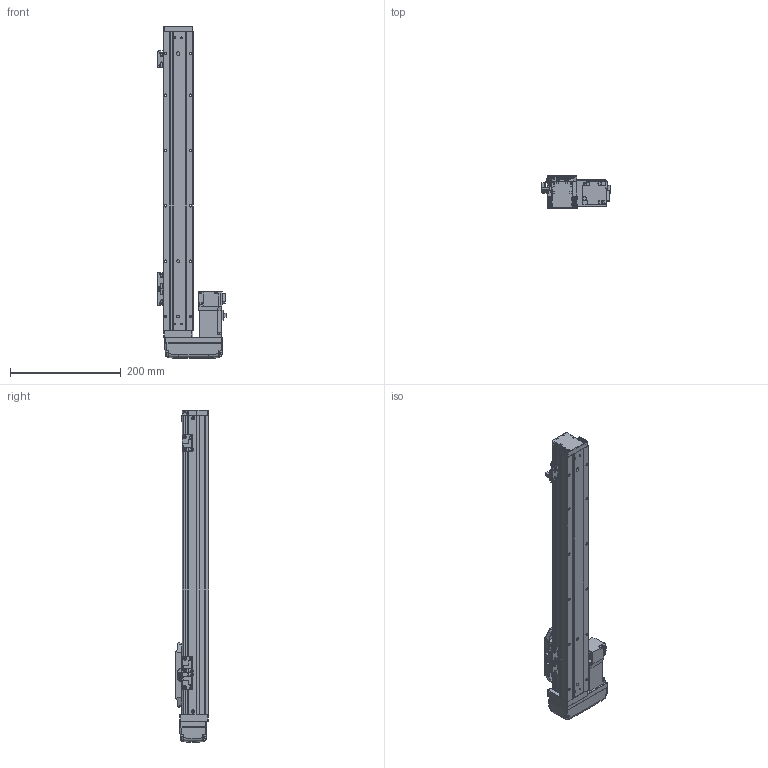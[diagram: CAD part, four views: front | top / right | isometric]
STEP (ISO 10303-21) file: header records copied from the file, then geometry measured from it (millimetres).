
FILE_DESCRIPTION (( 'STEP AP203' ), '1' );
FILE_NAME ('GTH5-400-BR-M10-C4.step', '2022-09-23T00:50:55', ( '微软用户' ), ( '微软中国' ), 'SwSTEP 2.0', 'SolidWorks 2020', '' );
FILE_SCHEMA (( 'CONFIG_CONTROL_DESIGN' ));
Length unit declared in the file: millimetre
Products named in the file (19): GTH50-004; GBT 70.3-M3℅6; GBT 70.1-M3℅6; GTH50-027-1_BTHA50-027-2; BTH-M3X5X6; GBT96.1-2002 3×0.8; GTH50-026; GTH50-001_400; GTH50-024; GTH5-400-BR-M10-C4; GBT 70.1-M4×16; GBT 70.1-M2.5×6; GTH50-003; GTH50-028; GTH50-013; GTH50-022-1; GTH50-006; GTH50-023; HG-KR13
Assembly tree (57 placements, depth 2):
  GTH5-400-BR-M10-C4
    GTH50-006
    GTH50-004
    GBT 70.3-M3℅6  x4
    BTH-M3X5X6  x8
    GTH50-001_400
    GBT 70.1-M4×16  x8
    GTH50-003
    GTH50-013
    GTH50-023  x3
    GBT 70.1-M3℅6  x12
    GBT96.1-2002 3×0.8  x6
    GTH50-024  x3
    GBT 70.1-M2.5×6  x2
    GTH50-028  x2
    GTH50-022-1
    HG-KR13
    GTH50-027-1_BTHA50-027-2
    GTH50-026
Bounding box: 123.6 x 60 x 600 mm (x, y, z)
Volume: 1408116.4 mm3; surface area: 256006.5 mm2
Topology: 59 solids, 59 shells, 2152 faces, 4992 edges, 3060 vertices
Faces by surface type: plane 1142, cylinder 581, cone 219, torus 162, bspline 40, sphere 8
Entity records: 39864 total; most frequent: CARTESIAN_POINT 7899, DIRECTION 6129, ORIENTED_EDGE 5898, EDGE_CURVE 2949, AXIS2_PLACEMENT_3D 2128, VECTOR 1873, LINE 1873, VERTEX_POINT 1862
